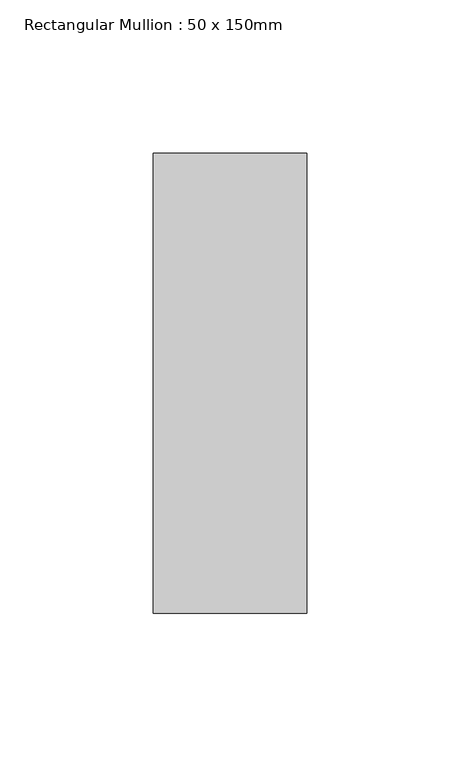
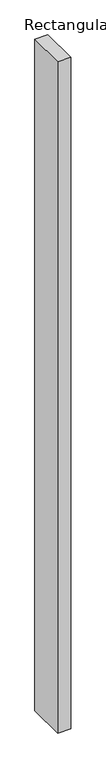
"""IFC4 building model written with IfcOpenShell, lengths in millimetres: member geometry, Rectangular Mullion : 50 x 150mm."""

from ifc_helpers import new_model, si_unit, frame, origin, place, context, project, spatial, polyline, outline, extrude, source, transform, mapped, element, save


def rectangular_mullion_50_x_150mm_af865c33(model_context):
    return source(origin(), model_context, "Body", "SweptSolid", [
        extrude(outline(polyline([(0.0, 25.0), (0.0, -125.0), (-50.0, -125.0), (-50.0, 25.0), (0.0, 25.0)])), frame((0.0, 0.0, -2715.0), z_axis=(0.0, 0.0, 1.0), x_axis=(1.0, 0.0, 0.0)), (0.0, 0.0, 1.0), 2715.0),
    ])


if __name__ == "__main__":
    model = new_model("IFC4")
    model_context = context("Model", 3, world=origin())
    ifc_project = project(units=[si_unit("LENGTHUNIT", "METRE", prefix="MILLI")], contexts=[model_context])
    site = spatial("IfcSite", under=ifc_project)
    building = spatial("IfcBuilding", under=site)
    placement = place(None, origin())
    rectangular_mullion_50_x_150mm_shape = rectangular_mullion_50_x_150mm_af865c33(model_context)
    element("IfcMember", 1, ObjectType="Rectangular Mullion : 50 x 150mm", at=placement, inside=building, context=model_context, shape_type="MappedRepresentation", body=[
        mapped(rectangular_mullion_50_x_150mm_shape, transform((0.0, 0.0, 0.0), x_axis=(1.0, 0.0, 0.0), y_axis=(0.0, 1.0, 0.0), z_axis=(0.0, 0.0, 1.0))),
    ])
    save(model, "model.ifc")
